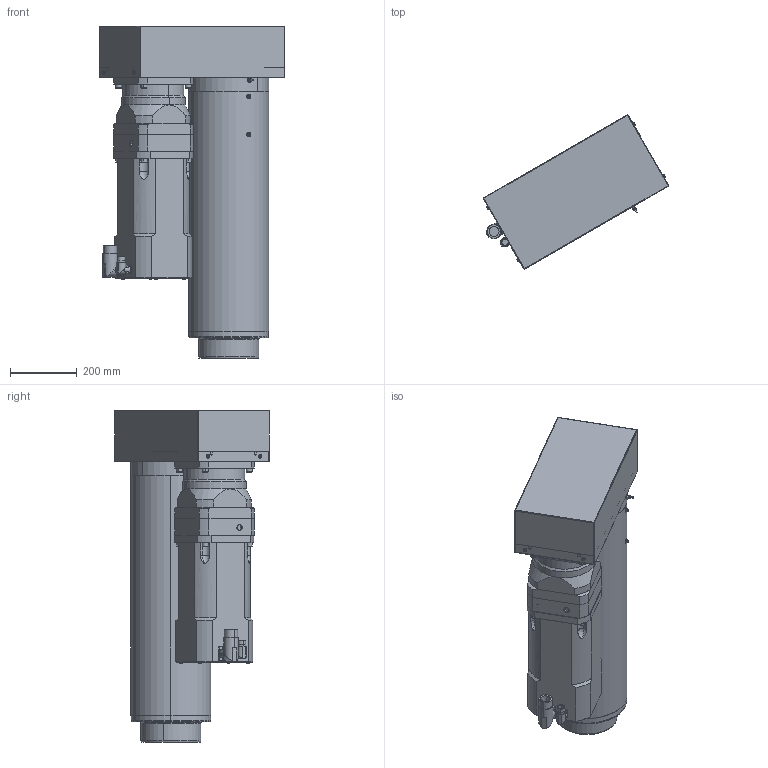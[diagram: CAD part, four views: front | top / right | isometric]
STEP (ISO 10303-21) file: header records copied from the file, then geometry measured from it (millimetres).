
FILE_DESCRIPTION (( 'STEP AP214' ), '1' );
FILE_NAME ('RLWPK200D-035-010HG0.STEP', '2023-04-06T06:33:37', ( '' ), ( '' ), 'SwSTEP 2.0', 'SolidWorks 2021', '' );
FILE_SCHEMA (( 'AUTOMOTIVE_DESIGN' ));
Length unit declared in the file: millimetre
Products named in the file (1): RLWPK200D-035-010HG0
Bounding box: 555.08 x 462.48 x 992 mm (x, y, z)
Surface area: 3655353.1 mm2 (no closed solid volume)
Topology: 0 solids, 39 shells, 1389 faces, 3300 edges, 2006 vertices
Faces by surface type: cylinder 570, plane 527, cone 224, torus 58, bspline 10
Entity records: 56665 total; most frequent: CARTESIAN_POINT 8765, DIRECTION 7149, ORIENTED_EDGE 6304, EDGE_CURVE 3158, AXIS2_PLACEMENT_3D 2769, VERTEX_POINT 2006, EDGE_LOOP 1670, LINE 1611
